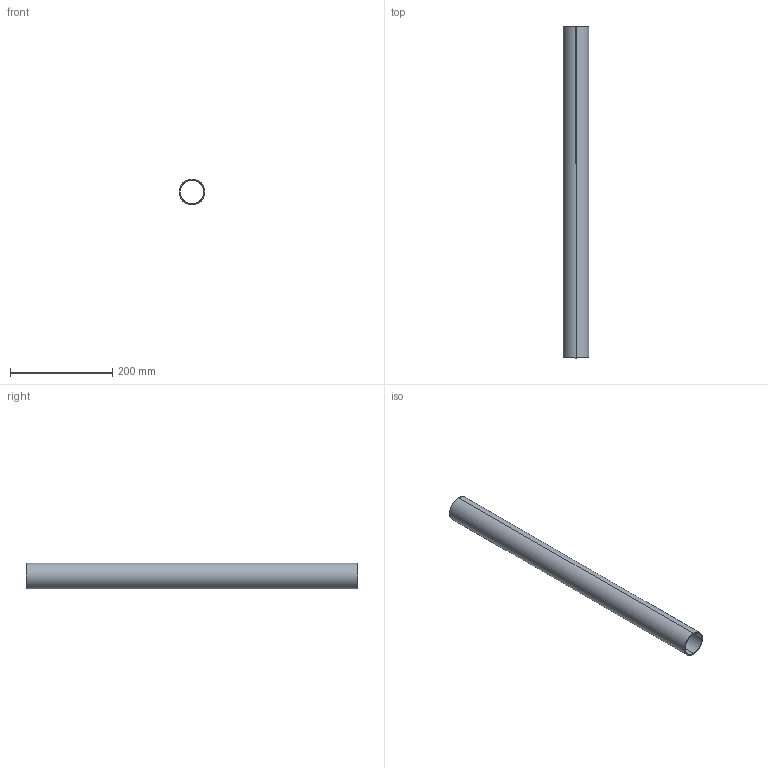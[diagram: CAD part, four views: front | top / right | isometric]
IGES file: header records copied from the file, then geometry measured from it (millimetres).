
Start section: SolidWorks IGES file using analytic representation for surfaces
Global section: file name: C:\Users\sebas\Documents\SOLIDWORKSComposer\TESIS\3. Dosificadora\IGS\Columna del dosificador.IGS; native system: SolidWorks 2022; preprocessor: SolidWorks 2022; author: sebas; date: 220619.065708; units: millimetre
Bounding box: 50 x 650 x 50 mm (x, y, z)
Surface area: 196638.6 mm2 (no closed solid volume)
Topology: 0 solids, 0 shells, 6 faces, 272 edges, 272 vertices
Faces by surface type: revolution 4, bspline 2
